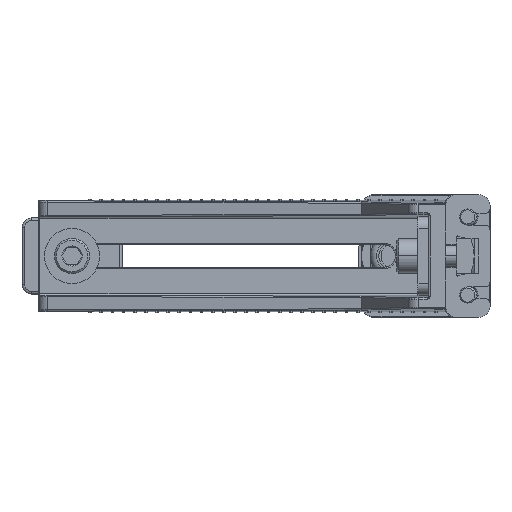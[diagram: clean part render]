
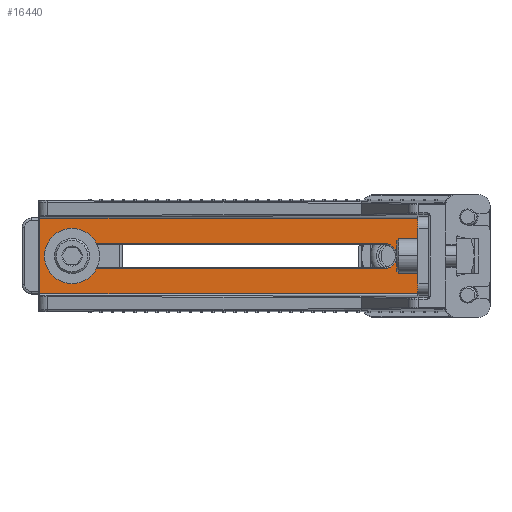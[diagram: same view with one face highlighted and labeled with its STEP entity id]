
A CAD part, left-side view. The second image highlights one B-rep face of the part: STEP entity #16440.
In plain terms, the highlighted planar face has unit normal (-1, 0, 0) as drawn and (1, 0, 0) by its records, which use the part's own axes.
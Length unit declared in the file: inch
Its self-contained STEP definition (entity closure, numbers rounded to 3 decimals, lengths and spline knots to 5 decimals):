
#10069=DIRECTION('',(0.,0.,-1.));
#10070=VECTOR('',#10069,0.84552);
#10071=CARTESIAN_POINT('',(0.1875,4.5475,0.42276));
#10072=LINE('',#10071,#10070);
#10229=DIRECTION('',(0.,0.,1.));
#10230=VECTOR('',#10229,0.84552);
#10231=CARTESIAN_POINT('',(0.1875,0.2025,-0.42276));
#10232=LINE('',#10231,#10230);
#10237=CARTESIAN_POINT('',(0.1875,0.6875,0.));
#10238=DIRECTION('',(-1.,0.,0.));
#10239=DIRECTION('',(0.,-1.,0.));
#10240=AXIS2_PLACEMENT_3D('',#10237,#10238,#10239);
#10242=CARTESIAN_POINT('',(0.1875,0.6875,0.));
#10243=DIRECTION('',(-1.,0.,0.));
#10244=DIRECTION('',(0.,0.,-1.));
#10245=AXIS2_PLACEMENT_3D('',#10242,#10243,#10244);
#10247=CARTESIAN_POINT('',(0.1875,4.1875,0.));
#10248=DIRECTION('',(-1.,0.,0.));
#10249=DIRECTION('',(0.,1.,0.));
#10250=AXIS2_PLACEMENT_3D('',#10247,#10248,#10249);
#10252=CARTESIAN_POINT('',(0.1875,4.1875,0.));
#10253=DIRECTION('',(-1.,0.,0.));
#10254=DIRECTION('',(0.,0.,1.));
#10255=AXIS2_PLACEMENT_3D('',#10252,#10253,#10254);
#10261=DIRECTION('',(0.,1.,0.));
#10262=VECTOR('',#10261,4.345);
#10263=CARTESIAN_POINT('',(0.1875,0.2025,0.42276));
#10264=LINE('',#10263,#10262);
#10288=DIRECTION('',(0.,-1.,0.));
#10289=VECTOR('',#10288,4.345);
#10290=CARTESIAN_POINT('',(0.1875,4.5475,-0.42276));
#10291=LINE('',#10290,#10289);
#10832=DIRECTION('',(0.,-1.,0.));
#10833=VECTOR('',#10832,3.5);
#10834=CARTESIAN_POINT('',(0.1875,4.1875,0.14301));
#10835=LINE('',#10834,#10833);
#10901=DIRECTION('',(0.,1.,0.));
#10902=VECTOR('',#10901,3.5);
#10903=CARTESIAN_POINT('',(0.1875,0.6875,-0.14301));
#10904=LINE('',#10903,#10902);
#13657=CARTESIAN_POINT('',(0.1875,0.6875,-0.14301));
#13658=CARTESIAN_POINT('',(0.1875,4.1875,-0.14301));
#13659=VERTEX_POINT('',#13657);
#13660=VERTEX_POINT('',#13658);
#13988=CARTESIAN_POINT('',(0.1875,0.54449,0.));
#13989=CARTESIAN_POINT('',(0.1875,0.6875,0.14301));
#13990=VERTEX_POINT('',#13988);
#13991=VERTEX_POINT('',#13989);
#14366=CARTESIAN_POINT('',(0.1875,4.1875,0.14301));
#14367=CARTESIAN_POINT('',(0.1875,4.33051,0.));
#14368=VERTEX_POINT('',#14366);
#14369=VERTEX_POINT('',#14367);
#14455=CARTESIAN_POINT('',(0.1875,0.2025,0.42276));
#14456=VERTEX_POINT('',#14455);
#14594=CARTESIAN_POINT('',(0.1875,4.5475,-0.42276));
#14595=VERTEX_POINT('',#14594);
#14620=CARTESIAN_POINT('',(0.1875,4.5475,0.42276));
#14621=VERTEX_POINT('',#14620);
#14713=CARTESIAN_POINT('',(0.1875,0.2025,-0.42276));
#14714=VERTEX_POINT('',#14713);
#16413=CARTESIAN_POINT('',(0.1875,0.,0.));
#16414=DIRECTION('',(-1.,0.,0.));
#16415=DIRECTION('',(0.,-1.,0.));
#16416=AXIS2_PLACEMENT_3D('',#16413,#16414,#16415);
#16417=PLANE('',#16416);
#16419=ORIENTED_EDGE('',*,*,#16418,.T.);
#16420=ORIENTED_EDGE('',*,*,#15999,.T.);
#16422=ORIENTED_EDGE('',*,*,#16421,.T.);
#16423=ORIENTED_EDGE('',*,*,#16404,.T.);
#16424=EDGE_LOOP('',(#16419,#16420,#16422,#16423));
#16425=FACE_OUTER_BOUND('',#16424,.F.);
#16427=ORIENTED_EDGE('',*,*,#16426,.T.);
#16429=ORIENTED_EDGE('',*,*,#16428,.F.);
#16431=ORIENTED_EDGE('',*,*,#16430,.F.);
#16433=ORIENTED_EDGE('',*,*,#16432,.T.);
#16435=ORIENTED_EDGE('',*,*,#16434,.F.);
#16437=ORIENTED_EDGE('',*,*,#16436,.F.);
#16438=EDGE_LOOP('',(#16427,#16429,#16431,#16433,#16435,#16437));
#16439=FACE_BOUND('',#16438,.F.);
#10241=CIRCLE('',#10240,0.14301);
#10246=CIRCLE('',#10245,0.14301);
#10251=CIRCLE('',#10250,0.14301);
#10256=CIRCLE('',#10255,0.14301);
#15999=EDGE_CURVE('',#14621,#14595,#10072,.T.);
#16404=EDGE_CURVE('',#14714,#14456,#10232,.T.);
#16418=EDGE_CURVE('',#14456,#14621,#10264,.T.);
#16421=EDGE_CURVE('',#14595,#14714,#10291,.T.);
#16426=EDGE_CURVE('',#14368,#13991,#10835,.T.);
#16428=EDGE_CURVE('',#13990,#13991,#10241,.T.);
#16430=EDGE_CURVE('',#13659,#13990,#10246,.T.);
#16432=EDGE_CURVE('',#13659,#13660,#10904,.T.);
#16434=EDGE_CURVE('',#14369,#13660,#10251,.T.);
#16436=EDGE_CURVE('',#14368,#14369,#10256,.T.);
#16440=ADVANCED_FACE('',(#16425,#16439),#16417,.F.);
